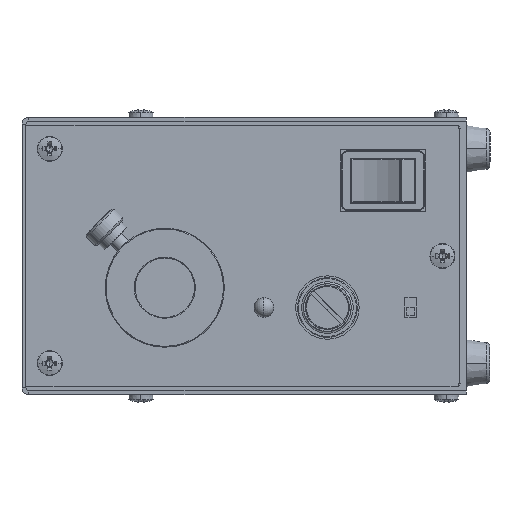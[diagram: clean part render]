
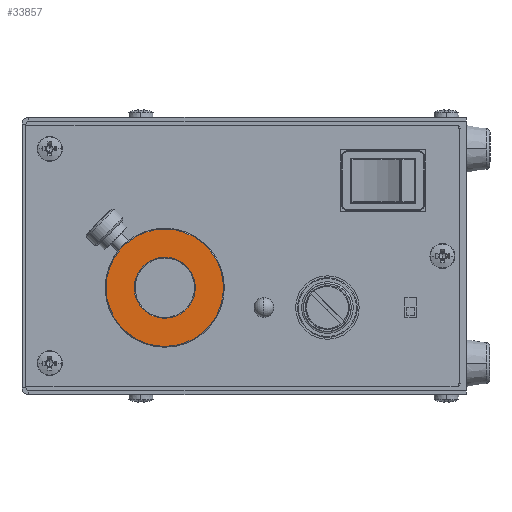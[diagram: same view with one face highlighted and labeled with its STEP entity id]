
A CAD part, left-side view. The second image highlights one B-rep face of the part: STEP entity #33857.
In plain terms, the highlighted planar face has unit normal (-1, 0, 0).
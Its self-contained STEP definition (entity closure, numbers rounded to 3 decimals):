
#7763 = CARTESIAN_POINT ( 'NONE',  ( -124.5, 76., -8. ) ) ;
#7764 = DIRECTION ( 'NONE',  ( -1., 0., 0. ) ) ;
#7765 = DIRECTION ( 'NONE',  ( 0., -1., 0. ) ) ;
#7778 = CARTESIAN_POINT ( 'NONE',  ( -124.5, 76., -8. ) ) ;
#7779 = DIRECTION ( 'NONE',  ( 1., 0., 0. ) ) ;
#7780 = DIRECTION ( 'NONE',  ( 0., -1., 0. ) ) ;
#15603 = ORIENTED_EDGE ( 'NONE', *, *, #35808, .T. ) ;
#15604 = ORIENTED_EDGE ( 'NONE', *, *, #34403, .T. ) ;
#15605 = ORIENTED_EDGE ( 'NONE', *, *, #34058, .T. ) ;
#15606 = ORIENTED_EDGE ( 'NONE', *, *, #35816, .T. ) ;
#17526 = CARTESIAN_POINT ( 'NONE',  ( -124.5, 76., -8. ) ) ;
#17527 = DIRECTION ( 'NONE',  ( 1., 0., 0. ) ) ;
#17528 = DIRECTION ( 'NONE',  ( 0., -1., 0. ) ) ;
#18060 = CARTESIAN_POINT ( 'NONE',  ( -124.5, 76., -8. ) ) ;
#18061 = DIRECTION ( 'NONE',  ( -1., 0., 0. ) ) ;
#18062 = DIRECTION ( 'NONE',  ( 0., -1., 0. ) ) ;
#21193 = CARTESIAN_POINT ( 'NONE',  ( -124.5, 76., -0.5 ) ) ;
#21195 = FACE_BOUND ( 'NONE', #44844, .T. ) ;
#21202 = FACE_OUTER_BOUND ( 'NONE', #44933, .T. ) ;
#21205 = PLANE ( 'NONE',  #47670 ) ;
#21208 = DIRECTION ( 'NONE',  ( -1., 0., 0. ) ) ;
#21210 = DIRECTION ( 'NONE',  ( 0., -1., 0. ) ) ;
#33857 = ADVANCED_FACE ( 'NONE', ( #21202, #21195 ), #21205, .T. ) ;
#34058 = EDGE_CURVE ( 'NONE', #44185, #44412, #47804, .T. ) ;
#34403 = EDGE_CURVE ( 'NONE', #44242, #44228, #48055, .T. ) ;
#35808 = EDGE_CURVE ( 'NONE', #44228, #44242, #50053, .T. ) ;
#35816 = EDGE_CURVE ( 'NONE', #44412, #44185, #50059, .T. ) ;
#39271 = CARTESIAN_POINT ( 'NONE',  ( -124.5, 68.3, -8. ) ) ;
#39314 = CARTESIAN_POINT ( 'NONE',  ( -124.5, 90.8, -8. ) ) ;
#39328 = CARTESIAN_POINT ( 'NONE',  ( -124.5, 61.2, -8. ) ) ;
#39498 = CARTESIAN_POINT ( 'NONE',  ( -124.5, 83.7, -8. ) ) ;
#44185 = VERTEX_POINT ( 'NONE', #39271 ) ;
#44228 = VERTEX_POINT ( 'NONE', #39314 ) ;
#44242 = VERTEX_POINT ( 'NONE', #39328 ) ;
#44412 = VERTEX_POINT ( 'NONE', #39498 ) ;
#44844 = EDGE_LOOP ( 'NONE', ( #15605, #15606 ) ) ;
#44933 = EDGE_LOOP ( 'NONE', ( #15603, #15604 ) ) ;
#47670 = AXIS2_PLACEMENT_3D ( 'NONE', #21193, #21208, #21210 ) ;
#47804 = CIRCLE ( 'NONE', #47807, 7.7 ) ;
#47807 = AXIS2_PLACEMENT_3D ( 'NONE', #17526, #17527, #17528 ) ;
#48055 = CIRCLE ( 'NONE', #48057, 14.8 ) ;
#48057 = AXIS2_PLACEMENT_3D ( 'NONE', #18060, #18061, #18062 ) ;
#50053 = CIRCLE ( 'NONE', #50056, 14.8 ) ;
#50056 = AXIS2_PLACEMENT_3D ( 'NONE', #7763, #7764, #7765 ) ;
#50059 = CIRCLE ( 'NONE', #50064, 7.7 ) ;
#50064 = AXIS2_PLACEMENT_3D ( 'NONE', #7778, #7779, #7780 ) ;
